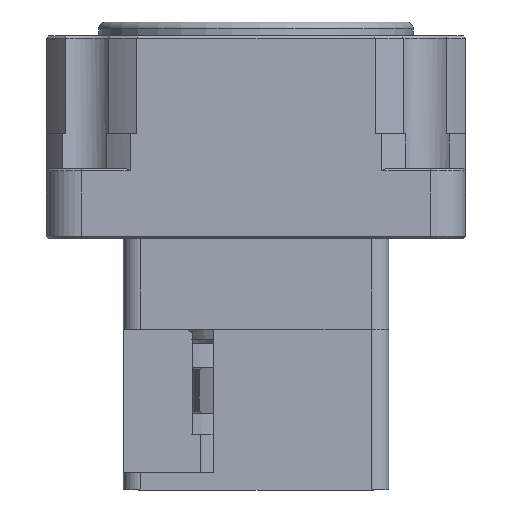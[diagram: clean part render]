
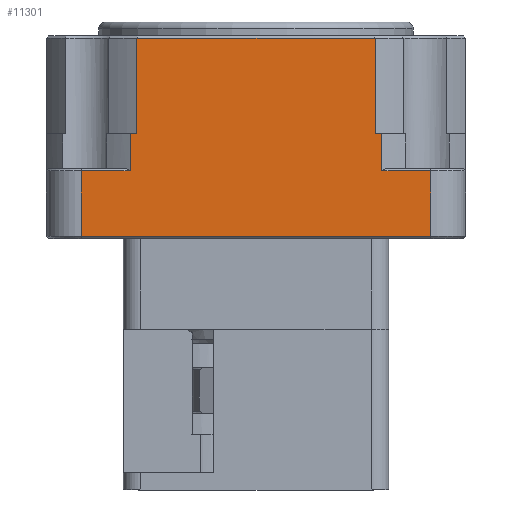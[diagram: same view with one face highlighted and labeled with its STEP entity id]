
A CAD part, left-side view. The second image highlights one B-rep face of the part: STEP entity #11301.
In plain terms, the highlighted planar face has unit normal (-1, 0, 0).
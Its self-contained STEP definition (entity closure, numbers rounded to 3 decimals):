
#9045=CARTESIAN_POINT('',(-30.,-17.037,28.7));
#9046=VERTEX_POINT('',#9045);
#9078=CARTESIAN_POINT('',(-30.,17.037,28.7));
#9079=VERTEX_POINT('',#9078);
#9087=CARTESIAN_POINT('',(-30.0,17.037,28.7));
#9088=DIRECTION('',(0.0,-1.0,0.0));
#9089=VECTOR('',#9088,34.073);
#9090=LINE('',#9087,#9089);
#9091=EDGE_CURVE('',#9079,#9046,#9090,.T.);
#10466=CARTESIAN_POINT('',(-30.,-25.,0.3));
#10467=VERTEX_POINT('',#10466);
#10490=CARTESIAN_POINT('',(-30.0,25.,0.3));
#10491=VERTEX_POINT('',#10490);
#10500=CARTESIAN_POINT('',(-30.,-25.,0.3));
#10501=DIRECTION('',(0.0,1.0,0.0));
#10502=VECTOR('',#10501,50.0);
#10503=LINE('',#10500,#10502);
#10504=EDGE_CURVE('',#10467,#10491,#10503,.T.);
#11044=CARTESIAN_POINT('',(-30.,-18.028,9.7));
#11045=VERTEX_POINT('',#11044);
#11053=CARTESIAN_POINT('',(-30.,-25.,9.7));
#11054=VERTEX_POINT('',#11053);
#11055=CARTESIAN_POINT('',(-30.,-18.028,9.7));
#11056=DIRECTION('',(0.0,-1.0,0.0));
#11057=VECTOR('',#11056,6.972);
#11058=LINE('',#11055,#11057);
#11059=EDGE_CURVE('',#11045,#11054,#11058,.T.);
#11221=CARTESIAN_POINT('',(-30.,-25.,9.7));
#11222=DIRECTION('',(0.0,0.0,-1.0));
#11223=VECTOR('',#11222,9.4);
#11224=LINE('',#11221,#11223);
#11225=EDGE_CURVE('',#11054,#10467,#11224,.T.);
#11230=CARTESIAN_POINT('',(-30.0,30.,0.0));
#11231=DIRECTION('',(-1.0,0.0,0.0));
#11232=DIRECTION('',(0.0,-1.0,0.0));
#11233=AXIS2_PLACEMENT_3D('',#11230,#11231,#11232);
#11234=PLANE('',#11233);
#11235=ORIENTED_EDGE('',*,*,#9091,.F.);
#11236=CARTESIAN_POINT('',(-30.,17.037,15.0));
#11237=VERTEX_POINT('',#11236);
#11238=CARTESIAN_POINT('',(-30.,17.037,15.0));
#11239=DIRECTION('',(0.0,0.0,1.0));
#11240=VECTOR('',#11239,13.7);
#11241=LINE('',#11238,#11240);
#11242=EDGE_CURVE('',#11237,#9079,#11241,.T.);
#11243=ORIENTED_EDGE('',*,*,#11242,.F.);
#11244=CARTESIAN_POINT('',(-30.0,18.028,15.0));
#11245=VERTEX_POINT('',#11244);
#11246=CARTESIAN_POINT('',(-30.0,18.028,15.0));
#11247=DIRECTION('',(0.0,-1.0,0.0));
#11248=VECTOR('',#11247,0.991);
#11249=LINE('',#11246,#11248);
#11250=EDGE_CURVE('',#11245,#11237,#11249,.T.);
#11251=ORIENTED_EDGE('',*,*,#11250,.F.);
#11252=CARTESIAN_POINT('',(-30.0,18.028,9.7));
#11253=VERTEX_POINT('',#11252);
#11254=CARTESIAN_POINT('',(-30.,18.028,9.7));
#11255=DIRECTION('',(0.0,0.0,1.0));
#11256=VECTOR('',#11255,5.3);
#11257=LINE('',#11254,#11256);
#11258=EDGE_CURVE('',#11253,#11245,#11257,.T.);
#11259=ORIENTED_EDGE('',*,*,#11258,.F.);
#11260=CARTESIAN_POINT('',(-30.0,25.,9.7));
#11261=VERTEX_POINT('',#11260);
#11262=CARTESIAN_POINT('',(-30.0,25.,9.7));
#11263=DIRECTION('',(0.0,-1.0,0.0));
#11264=VECTOR('',#11263,6.972);
#11265=LINE('',#11262,#11264);
#11266=EDGE_CURVE('',#11261,#11253,#11265,.T.);
#11267=ORIENTED_EDGE('',*,*,#11266,.F.);
#11268=CARTESIAN_POINT('',(-30.0,25.,0.3));
#11269=DIRECTION('',(0.0,0.0,1.0));
#11270=VECTOR('',#11269,9.4);
#11271=LINE('',#11268,#11270);
#11272=EDGE_CURVE('',#10491,#11261,#11271,.T.);
#11273=ORIENTED_EDGE('',*,*,#11272,.F.);
#11274=ORIENTED_EDGE('',*,*,#10504,.F.);
#11275=ORIENTED_EDGE('',*,*,#11225,.F.);
#11276=ORIENTED_EDGE('',*,*,#11059,.F.);
#11277=CARTESIAN_POINT('',(-30.,-18.028,15.0));
#11278=VERTEX_POINT('',#11277);
#11279=CARTESIAN_POINT('',(-30.,-18.028,15.0));
#11280=DIRECTION('',(0.0,0.0,-1.0));
#11281=VECTOR('',#11280,5.3);
#11282=LINE('',#11279,#11281);
#11283=EDGE_CURVE('',#11278,#11045,#11282,.T.);
#11284=ORIENTED_EDGE('',*,*,#11283,.F.);
#11285=CARTESIAN_POINT('',(-30.,-17.037,15.0));
#11286=VERTEX_POINT('',#11285);
#11287=CARTESIAN_POINT('',(-30.,-17.037,15.0));
#11288=DIRECTION('',(0.0,-1.0,0.0));
#11289=VECTOR('',#11288,0.991);
#11290=LINE('',#11287,#11289);
#11291=EDGE_CURVE('',#11286,#11278,#11290,.T.);
#11292=ORIENTED_EDGE('',*,*,#11291,.F.);
#11293=CARTESIAN_POINT('',(-30.,-17.037,15.0));
#11294=DIRECTION('',(0.0,0.0,1.0));
#11295=VECTOR('',#11294,13.7);
#11296=LINE('',#11293,#11295);
#11297=EDGE_CURVE('',#11286,#9046,#11296,.T.);
#11298=ORIENTED_EDGE('',*,*,#11297,.T.);
#11299=EDGE_LOOP('',(#11235,#11243,#11251,#11259,#11267,#11273,#11274,#11275,#11276,#11284,#11292,#11298));
#11300=FACE_OUTER_BOUND('',#11299,.T.);
#11301=ADVANCED_FACE('',(#11300),#11234,.T.);
